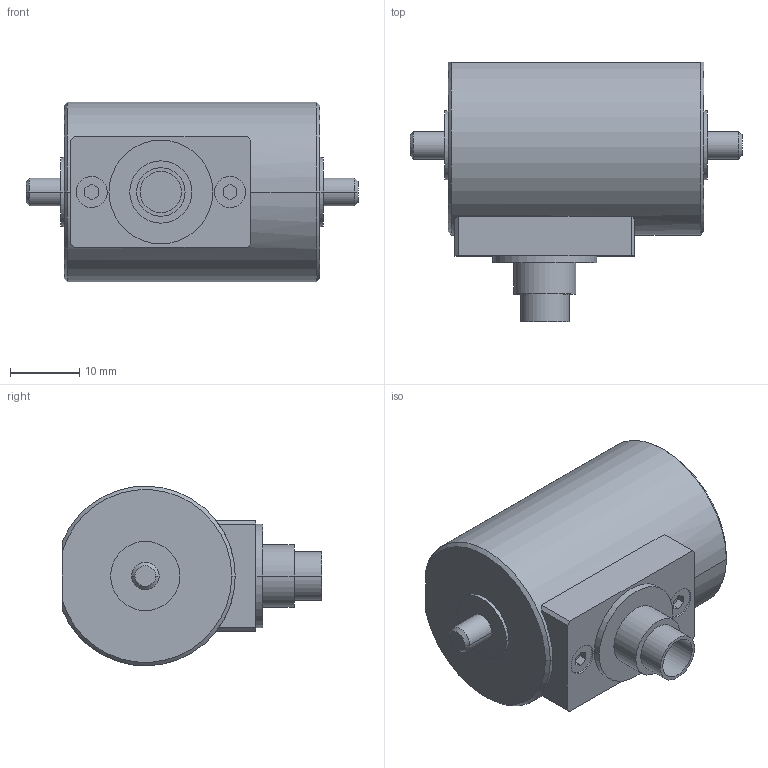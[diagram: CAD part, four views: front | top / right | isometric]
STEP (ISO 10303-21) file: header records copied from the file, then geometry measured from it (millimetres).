
FILE_DESCRIPTION(('STEP AP214'),'1');
FILE_NAME('burster_8625-4020_9fcurqj0drc7w59n85ekjqqya.stp','2017-04-20T16:06:24',('TraceParts'),('TraceParts S.A.'),'Spatial InterOp 3D',' ',' ');
FILE_SCHEMA(('automotive_design'));
Length unit declared in the file: millimetre
Products named in the file (1): burster_8625-4020_9fcurqj0drc7w59n85ekjqqya
Bounding box: 48 x 37.5 x 25.99 mm (x, y, z)
Volume: 21571.3 mm3; surface area: 5007.5 mm2
Topology: 1 solids, 1 shells, 72 faces, 162 edges, 106 vertices
Faces by surface type: plane 38, cylinder 22, cone 8, bspline 4
Entity records: 3758 total; most frequent: CARTESIAN_POINT 1522, DIRECTION 346, ORIENTED_EDGE 324, EDGE_CURVE 162, AXIS2_PLACEMENT_3D 129, VERTEX_POINT 106, LINE 88, VECTOR 88
